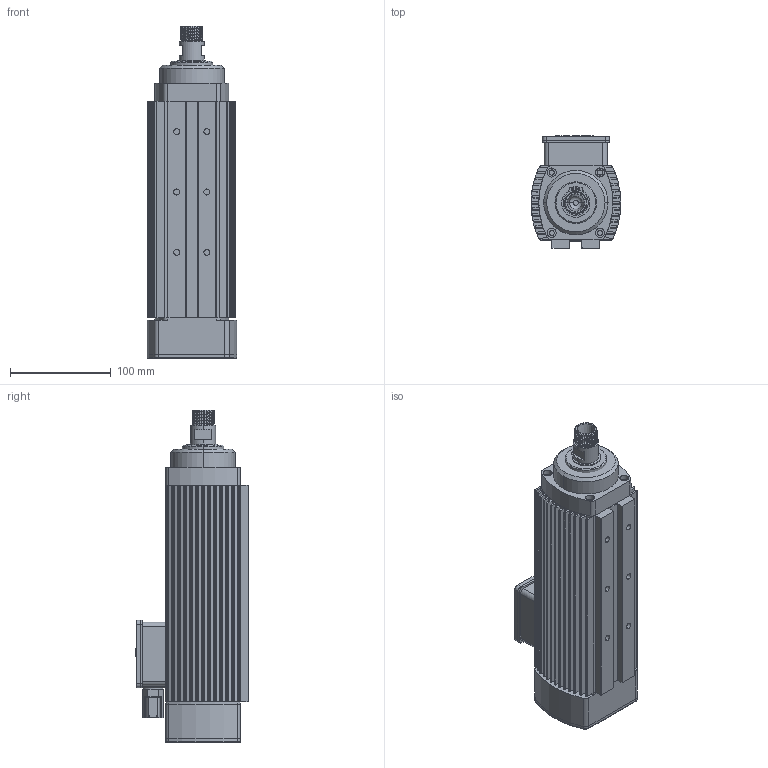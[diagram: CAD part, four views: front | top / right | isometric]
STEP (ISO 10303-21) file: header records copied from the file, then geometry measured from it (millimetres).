
FILE_DESCRIPTION (( 'STEP AP203' ), '1' );
FILE_NAME ('ARFM.2Y-L ER 16.STEP', '2021-08-06T05:45:20', ( '' ), ( '' ), 'SwSTEP 2.0', 'SolidWorks 2014', '' );
FILE_SCHEMA (( 'CONFIG_CONTROL_DESIGN' ));
Length unit declared in the file: millimetre
Products named in the file (12): arfm.2y ön kapak tek bilyalý; arfm.2y-l gövde; 471-25 Sekman_98541A440; arfm.2y-m arka hava kapak; pg 9 týrnaklý; arfm.2y rulman toz kapak; arfm.2y arka kapak; ARFM.2Y-L ER 16; klemens kutusu; Klemens Kutusu; arfm.2y rotor mili ER 16; klemens kutusu kapaðý
Assembly tree (11 placements, depth 3):
  ARFM.2Y-L ER 16
    arfm.2y-l gövde
    arfm.2y arka kapak
    arfm.2y ön kapak tek bilyalý
    arfm.2y rulman toz kapak
    arfm.2y rotor mili ER 16
    arfm.2y-m arka hava kapak
    Klemens Kutusu
      klemens kutusu
      klemens kutusu kapaðý
      pg 9 týrnaklý
    471-25 Sekman_98541A440
Bounding box: 89.3 x 112 x 330 mm (x, y, z)
Volume: 1781429.4 mm3; surface area: 252439 mm2
Topology: 10 solids, 10 shells, 800 faces, 2123 edges, 1381 vertices
Faces by surface type: cylinder 447, plane 317, torus 17, bspline 10, cone 9
Entity records: 28977 total; most frequent: CARTESIAN_POINT 7428, DIRECTION 4341, ORIENTED_EDGE 4246, EDGE_CURVE 2123, AXIS2_PLACEMENT_3D 1562, VERTEX_POINT 1381, LINE 1217, VECTOR 1217
